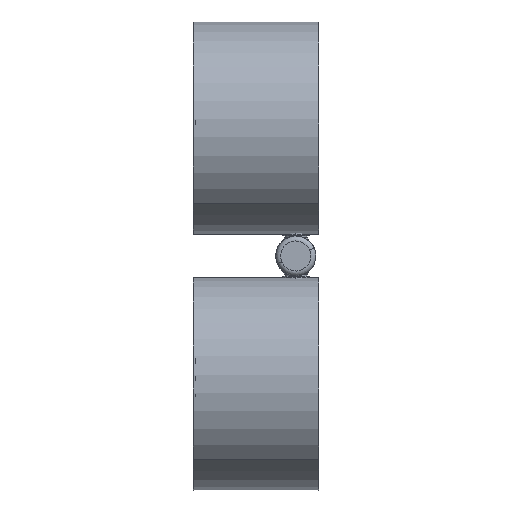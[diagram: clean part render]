
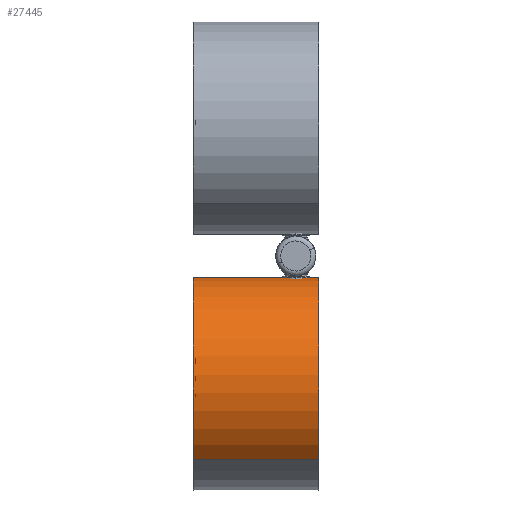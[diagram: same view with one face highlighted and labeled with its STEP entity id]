
A CAD part, front view. The second image highlights one B-rep face of the part: STEP entity #27445.
In plain terms, the highlighted cylindrical face has radius 42.5 mm (diameter 85 mm), a partial arc.
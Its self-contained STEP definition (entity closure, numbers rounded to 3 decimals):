
#26869=CARTESIAN_POINT('',(0.,0.,0.));
#26870=DIRECTION('',(0.,0.,1.));
#26871=DIRECTION('',(-1.,0.,0.));
#26872=AXIS2_PLACEMENT_3D('',#26869,#26870,#26871);
#26900=DIRECTION('',(0.,0.,1.));
#26901=VECTOR('',#26900,50.);
#26902=CARTESIAN_POINT('',(42.5,0.,0.));
#26903=LINE('',#26902,#26901);
#26904=DIRECTION('',(0.,0.,1.));
#26905=VECTOR('',#26904,50.);
#26906=CARTESIAN_POINT('',(-42.5,0.,0.));
#26907=LINE('',#26906,#26905);
#26913=CARTESIAN_POINT('',(0.,0.,50.));
#26914=DIRECTION('',(0.,0.,1.));
#26915=DIRECTION('',(-1.,0.,0.));
#26916=AXIS2_PLACEMENT_3D('',#26913,#26914,#26915);
#27268=CARTESIAN_POINT('',(42.5,0.,0.));
#27269=CARTESIAN_POINT('',(-42.5,0.,0.));
#27270=VERTEX_POINT('',#27268);
#27271=VERTEX_POINT('',#27269);
#27272=CARTESIAN_POINT('',(42.5,0.,50.));
#27273=CARTESIAN_POINT('',(-42.5,0.,50.));
#27274=VERTEX_POINT('',#27272);
#27275=VERTEX_POINT('',#27273);
#27433=CARTESIAN_POINT('',(0.,0.,0.));
#27434=DIRECTION('',(0.,0.,1.));
#27435=DIRECTION('',(1.,0.,0.));
#27436=AXIS2_PLACEMENT_3D('',#27433,#27434,#27435);
#27437=CYLINDRICAL_SURFACE('',#27436,42.5);
#27438=ORIENTED_EDGE('',*,*,#27395,.F.);
#27439=ORIENTED_EDGE('',*,*,#27428,.T.);
#27441=ORIENTED_EDGE('',*,*,#27440,.T.);
#27442=ORIENTED_EDGE('',*,*,#27424,.F.);
#27443=EDGE_LOOP('',(#27438,#27439,#27441,#27442));
#27444=FACE_OUTER_BOUND('',#27443,.F.);
#27445=ADVANCED_FACE('',(#27444),#27437,.T.);
#26873=CIRCLE('',#26872,42.5);
#26917=CIRCLE('',#26916,42.5);
#27395=EDGE_CURVE('',#27271,#27270,#26873,.T.);
#27424=EDGE_CURVE('',#27270,#27274,#26903,.T.);
#27428=EDGE_CURVE('',#27271,#27275,#26907,.T.);
#27440=EDGE_CURVE('',#27275,#27274,#26917,.T.);
